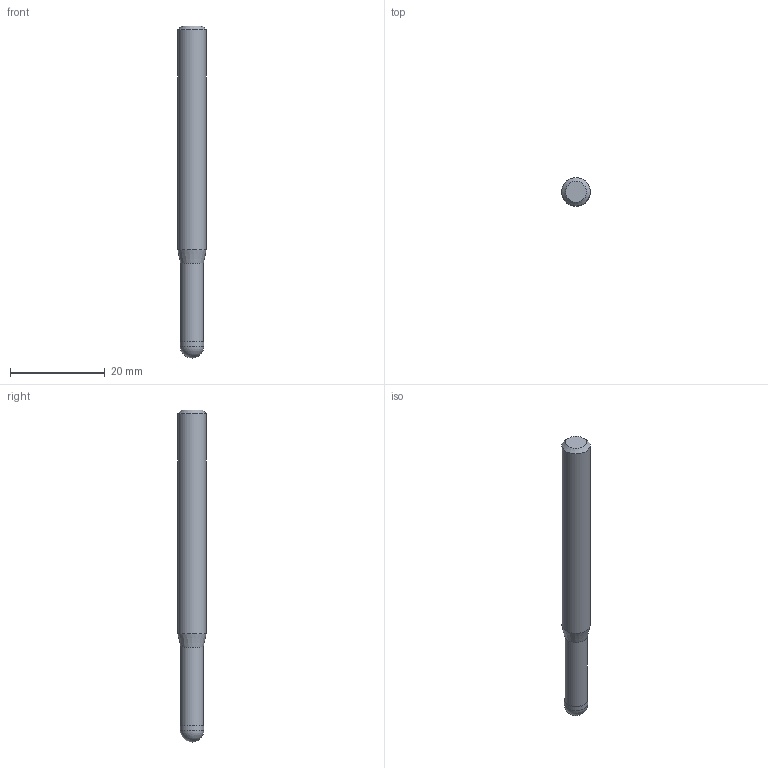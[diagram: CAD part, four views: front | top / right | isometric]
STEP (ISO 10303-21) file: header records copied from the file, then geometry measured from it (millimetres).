
FILE_DESCRIPTION((''),'2;1');
FILE_NAME('C:\Users\nsx150\AppData\Local\Temp\Mastercam 2021\3SYKECWX22\TEMP.step','2021-04-22T10:05:41',(''),(''),'STEP Write','Mastercam 2021 ... CNC Software, Inc.','');
FILE_SCHEMA(('AUTOMOTIVE_DESIGN'));
Length unit declared in the file: millimetre
Products named in the file (1): None
Bounding box: 6 x 6 x 70 mm (x, y, z)
Volume: 1744.3 mm3; surface area: 1298.4 mm2
Topology: 2 solids, 2 shells, 9 faces, 14 edges, 8 vertices
Faces by surface type: plane 3, cylinder 3, cone 2, sphere 1
Full cylindrical faces by diameter (mm): 4.8 x1, 5 x1, 6 x1
Entity records: 211 total; most frequent: DIRECTION 36, CARTESIAN_POINT 25, AXIS2_PLACEMENT_3D 18, ORIENTED_EDGE 14, EDGE_LOOP 14, STYLED_ITEM 12, ADVANCED_FACE 9, FACE_BOUND 8
